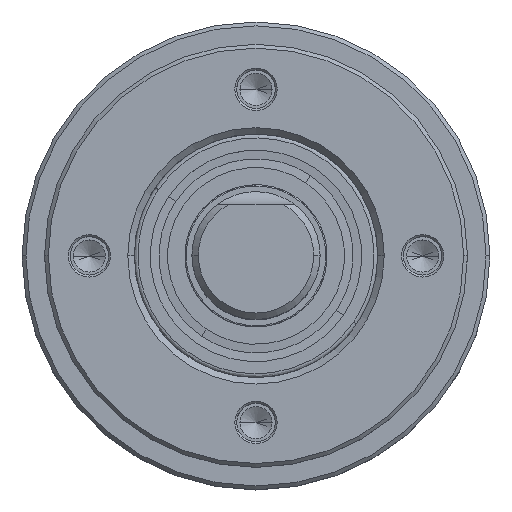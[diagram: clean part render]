
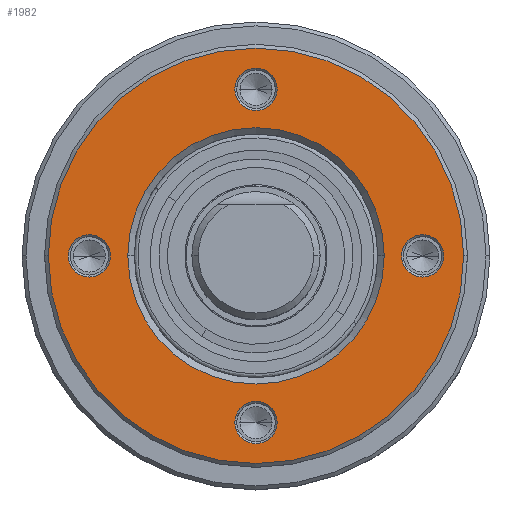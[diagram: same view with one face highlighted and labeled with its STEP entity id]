
A CAD part, top view. The second image highlights one B-rep face of the part: STEP entity #1982.
In plain terms, the highlighted planar face has unit normal (0, 0, 1).
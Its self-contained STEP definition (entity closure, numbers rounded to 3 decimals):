
#122 = VERTEX_POINT ( 'NONE', #5558 ) ;
#274 = EDGE_CURVE ( 'NONE', #7133, #4986, #6379, .T. ) ;
#309 = AXIS2_PLACEMENT_3D ( 'NONE', #6756, #2989, #2404 ) ;
#419 = EDGE_CURVE ( 'NONE', #1480, #5683, #1713, .T. ) ;
#473 = VERTEX_POINT ( 'NONE', #5119 ) ;
#531 = CIRCLE ( 'NONE', #7942, 10. ) ;
#709 = EDGE_CURVE ( 'NONE', #1104, #1439, #531, .T. ) ;
#773 = DIRECTION ( 'NONE',  ( 0., 0., 1. ) ) ;
#804 = PLANE ( 'NONE',  #3437 ) ;
#810 = DIRECTION ( 'NONE',  ( 0., 0., -1. ) ) ;
#901 = ORIENTED_EDGE ( 'NONE', *, *, #274, .F. ) ;
#927 = CARTESIAN_POINT ( 'NONE',  ( -13., 0., 0. ) ) ;
#957 = DIRECTION ( 'NONE',  ( 1., 0., 0. ) ) ;
#1048 = EDGE_CURVE ( 'NONE', #6908, #4162, #7148, .T. ) ;
#1104 = VERTEX_POINT ( 'NONE', #4725 ) ;
#1133 = CIRCLE ( 'NONE', #3262, 1.65 ) ;
#1139 = AXIS2_PLACEMENT_3D ( 'NONE', #2627, #810, #6883 ) ;
#1175 = CARTESIAN_POINT ( 'NONE',  ( 16.2, 0., 0. ) ) ;
#1340 = DIRECTION ( 'NONE',  ( 1., 0., 0. ) ) ;
#1341 = DIRECTION ( 'NONE',  ( -1., 0., 0. ) ) ;
#1392 = AXIS2_PLACEMENT_3D ( 'NONE', #4182, #7135, #7236 ) ;
#1407 = AXIS2_PLACEMENT_3D ( 'NONE', #5655, #1922, #6203 ) ;
#1439 = VERTEX_POINT ( 'NONE', #7348 ) ;
#1477 = CIRCLE ( 'NONE', #4691, 1.65 ) ;
#1480 = VERTEX_POINT ( 'NONE', #1175 ) ;
#1713 = CIRCLE ( 'NONE', #7346, 16.2 ) ;
#1922 = DIRECTION ( 'NONE',  ( 0., 0., 1. ) ) ;
#1982 = ADVANCED_FACE ( 'NONE', ( #7252, #6890, #5667, #7951, #4021, #4906 ), #804, .F. ) ;
#2076 = DIRECTION ( 'NONE',  ( 0., 0., 1. ) ) ;
#2080 = EDGE_CURVE ( 'NONE', #4162, #6908, #7854, .T. ) ;
#2139 = CIRCLE ( 'NONE', #4408, 1.65 ) ;
#2173 = ORIENTED_EDGE ( 'NONE', *, *, #419, .T. ) ;
#2192 = CARTESIAN_POINT ( 'NONE',  ( -16.2, 0., 0. ) ) ;
#2213 = EDGE_CURVE ( 'NONE', #5683, #1480, #2680, .T. ) ;
#2402 = ORIENTED_EDGE ( 'NONE', *, *, #5627, .T. ) ;
#2404 = DIRECTION ( 'NONE',  ( 1., 0., 0. ) ) ;
#2627 = CARTESIAN_POINT ( 'NONE',  ( 0., 0., 0. ) ) ;
#2680 = CIRCLE ( 'NONE', #1407, 16.2 ) ;
#2714 = CIRCLE ( 'NONE', #3516, 1.65 ) ;
#2736 = CARTESIAN_POINT ( 'NONE',  ( 0., -13., 0. ) ) ;
#2950 = DIRECTION ( 'NONE',  ( 1., 0., 0. ) ) ;
#2989 = DIRECTION ( 'NONE',  ( 0., 0., 1. ) ) ;
#3262 = AXIS2_PLACEMENT_3D ( 'NONE', #3832, #5065, #1340 ) ;
#3282 = EDGE_LOOP ( 'NONE', ( #2402, #4229 ) ) ;
#3285 = CIRCLE ( 'NONE', #1139, 10. ) ;
#3406 = DIRECTION ( 'NONE',  ( 0., 0., 1. ) ) ;
#3437 = AXIS2_PLACEMENT_3D ( 'NONE', #4536, #6604, #4141 ) ;
#3464 = CARTESIAN_POINT ( 'NONE',  ( -1.65, 13., 0. ) ) ;
#3474 = EDGE_CURVE ( 'NONE', #4986, #7133, #1133, .T. ) ;
#3516 = AXIS2_PLACEMENT_3D ( 'NONE', #2736, #2076, #5862 ) ;
#3565 = ORIENTED_EDGE ( 'NONE', *, *, #2213, .T. ) ;
#3593 = CARTESIAN_POINT ( 'NONE',  ( -14.65, 0., 0. ) ) ;
#3620 = CARTESIAN_POINT ( 'NONE',  ( -13., 0., 0. ) ) ;
#3756 = DIRECTION ( 'NONE',  ( 1., 0., 0. ) ) ;
#3765 = CARTESIAN_POINT ( 'NONE',  ( 1.65, 13., 0. ) ) ;
#3820 = ORIENTED_EDGE ( 'NONE', *, *, #7365, .F. ) ;
#3832 = CARTESIAN_POINT ( 'NONE',  ( 13., 0., 0. ) ) ;
#4021 = FACE_BOUND ( 'NONE', #5034, .T. ) ;
#4107 = ORIENTED_EDGE ( 'NONE', *, *, #5252, .F. ) ;
#4141 = DIRECTION ( 'NONE',  ( -1., 0., 0. ) ) ;
#4162 = VERTEX_POINT ( 'NONE', #3765 ) ;
#4164 = CARTESIAN_POINT ( 'NONE',  ( 0., 13., 0. ) ) ;
#4182 = CARTESIAN_POINT ( 'NONE',  ( 0., 13., 0. ) ) ;
#4229 = ORIENTED_EDGE ( 'NONE', *, *, #709, .T. ) ;
#4248 = DIRECTION ( 'NONE',  ( 0., 0., 1. ) ) ;
#4327 = DIRECTION ( 'NONE',  ( -1., 0., 0. ) ) ;
#4408 = AXIS2_PLACEMENT_3D ( 'NONE', #3620, #4248, #6093 ) ;
#4479 = CARTESIAN_POINT ( 'NONE',  ( 0., 0., 0. ) ) ;
#4493 = CIRCLE ( 'NONE', #6043, 1.65 ) ;
#4526 = EDGE_LOOP ( 'NONE', ( #3820, #6255 ) ) ;
#4536 = CARTESIAN_POINT ( 'NONE',  ( 0., 9.5, 0. ) ) ;
#4691 = AXIS2_PLACEMENT_3D ( 'NONE', #5126, #6303, #3756 ) ;
#4725 = CARTESIAN_POINT ( 'NONE',  ( -10., 0., 0. ) ) ;
#4788 = DIRECTION ( 'NONE',  ( 0., 0., 1. ) ) ;
#4906 = FACE_OUTER_BOUND ( 'NONE', #5728, .T. ) ;
#4911 = CARTESIAN_POINT ( 'NONE',  ( 14.65, 0., 0. ) ) ;
#4986 = VERTEX_POINT ( 'NONE', #7514 ) ;
#5034 = EDGE_LOOP ( 'NONE', ( #5058, #6440 ) ) ;
#5041 = DIRECTION ( 'NONE',  ( 0., 0., -1. ) ) ;
#5058 = ORIENTED_EDGE ( 'NONE', *, *, #2080, .F. ) ;
#5065 = DIRECTION ( 'NONE',  ( 0., 0., 1. ) ) ;
#5119 = CARTESIAN_POINT ( 'NONE',  ( -1.65, -13., 0. ) ) ;
#5126 = CARTESIAN_POINT ( 'NONE',  ( 0., -13., 0. ) ) ;
#5252 = EDGE_CURVE ( 'NONE', #5860, #473, #2714, .T. ) ;
#5287 = CARTESIAN_POINT ( 'NONE',  ( 1.65, -13., 0. ) ) ;
#5342 = EDGE_LOOP ( 'NONE', ( #4107, #7208 ) ) ;
#5558 = CARTESIAN_POINT ( 'NONE',  ( -11.35, 0., 0. ) ) ;
#5627 = EDGE_CURVE ( 'NONE', #1439, #1104, #3285, .T. ) ;
#5655 = CARTESIAN_POINT ( 'NONE',  ( 0., 0., 0. ) ) ;
#5667 = FACE_BOUND ( 'NONE', #5342, .T. ) ;
#5683 = VERTEX_POINT ( 'NONE', #2192 ) ;
#5728 = EDGE_LOOP ( 'NONE', ( #3565, #2173 ) ) ;
#5813 = AXIS2_PLACEMENT_3D ( 'NONE', #4164, #4788, #2950 ) ;
#5860 = VERTEX_POINT ( 'NONE', #5287 ) ;
#5862 = DIRECTION ( 'NONE',  ( 1., 0., 0. ) ) ;
#6043 = AXIS2_PLACEMENT_3D ( 'NONE', #927, #3406, #957 ) ;
#6093 = DIRECTION ( 'NONE',  ( 1., 0., 0. ) ) ;
#6203 = DIRECTION ( 'NONE',  ( -1., 0., 0. ) ) ;
#6255 = ORIENTED_EDGE ( 'NONE', *, *, #7011, .F. ) ;
#6303 = DIRECTION ( 'NONE',  ( 0., 0., 1. ) ) ;
#6379 = CIRCLE ( 'NONE', #309, 1.65 ) ;
#6440 = ORIENTED_EDGE ( 'NONE', *, *, #1048, .F. ) ;
#6604 = DIRECTION ( 'NONE',  ( 0., 0., -1. ) ) ;
#6756 = CARTESIAN_POINT ( 'NONE',  ( 13., 0., 0. ) ) ;
#6883 = DIRECTION ( 'NONE',  ( -1., 0., 0. ) ) ;
#6890 = FACE_BOUND ( 'NONE', #7341, .T. ) ;
#6908 = VERTEX_POINT ( 'NONE', #3464 ) ;
#7011 = EDGE_CURVE ( 'NONE', #7084, #122, #2139, .T. ) ;
#7084 = VERTEX_POINT ( 'NONE', #3593 ) ;
#7133 = VERTEX_POINT ( 'NONE', #4911 ) ;
#7135 = DIRECTION ( 'NONE',  ( 0., 0., 1. ) ) ;
#7148 = CIRCLE ( 'NONE', #1392, 1.65 ) ;
#7208 = ORIENTED_EDGE ( 'NONE', *, *, #7594, .F. ) ;
#7236 = DIRECTION ( 'NONE',  ( 1., 0., 0. ) ) ;
#7252 = FACE_BOUND ( 'NONE', #3282, .T. ) ;
#7341 = EDGE_LOOP ( 'NONE', ( #901, #7420 ) ) ;
#7346 = AXIS2_PLACEMENT_3D ( 'NONE', #4479, #773, #1341 ) ;
#7348 = CARTESIAN_POINT ( 'NONE',  ( 10., 0., 0. ) ) ;
#7365 = EDGE_CURVE ( 'NONE', #122, #7084, #4493, .T. ) ;
#7420 = ORIENTED_EDGE ( 'NONE', *, *, #3474, .F. ) ;
#7487 = CARTESIAN_POINT ( 'NONE',  ( 0., 0., 0. ) ) ;
#7514 = CARTESIAN_POINT ( 'NONE',  ( 11.35, 0., 0. ) ) ;
#7594 = EDGE_CURVE ( 'NONE', #473, #5860, #1477, .T. ) ;
#7854 = CIRCLE ( 'NONE', #5813, 1.65 ) ;
#7942 = AXIS2_PLACEMENT_3D ( 'NONE', #7487, #5041, #4327 ) ;
#7951 = FACE_BOUND ( 'NONE', #4526, .T. ) ;
